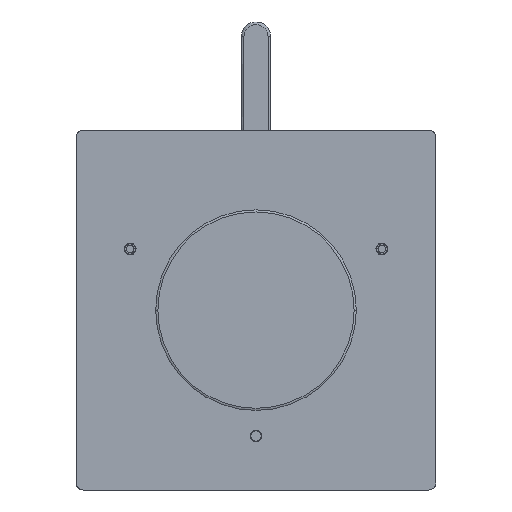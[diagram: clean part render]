
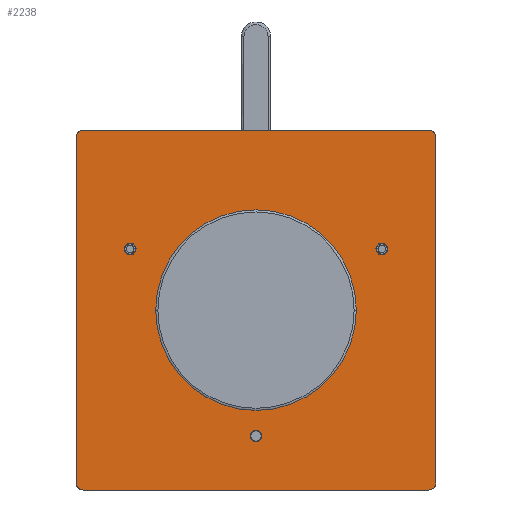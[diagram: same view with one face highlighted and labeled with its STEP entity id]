
A CAD part, front view. The second image highlights one B-rep face of the part: STEP entity #2238.
In plain terms, the highlighted planar face has unit normal (0, -1, 0).
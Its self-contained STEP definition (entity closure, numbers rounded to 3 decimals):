
#276=CARTESIAN_POINT('',(48.,102.5,50.));
#277=CARTESIAN_POINT('',(48.21,102.5,50.));
#278=CARTESIAN_POINT('',(48.63,102.5,49.933));
#279=CARTESIAN_POINT('',(49.196,102.5,49.644));
#280=CARTESIAN_POINT('',(49.644,102.5,49.196));
#281=CARTESIAN_POINT('',(49.836,102.5,48.82));
#282=CARTESIAN_POINT('',(49.901,102.5,48.621));
#284=CARTESIAN_POINT('',(49.901,102.5,48.621));
#285=CARTESIAN_POINT('',(49.967,102.5,48.421));
#286=CARTESIAN_POINT('',(50.,102.5,48.21));
#287=CARTESIAN_POINT('',(50.,102.5,48.));
#289=DIRECTION('',(0.,0.,1.));
#290=VECTOR('',#289,96.);
#291=CARTESIAN_POINT('',(50.,102.5,-48.));
#292=LINE('',#291,#290);
#293=CARTESIAN_POINT('',(50.,102.5,-48.));
#294=CARTESIAN_POINT('',(50.,102.5,-48.21));
#295=CARTESIAN_POINT('',(49.933,102.5,-48.63));
#296=CARTESIAN_POINT('',(49.644,102.5,-49.196));
#297=CARTESIAN_POINT('',(49.196,102.5,-49.644));
#298=CARTESIAN_POINT('',(48.82,102.5,-49.836));
#299=CARTESIAN_POINT('',(48.621,102.5,-49.901));
#301=CARTESIAN_POINT('',(48.621,102.5,-49.901));
#302=CARTESIAN_POINT('',(48.421,102.5,-49.967));
#303=CARTESIAN_POINT('',(48.21,102.5,-50.));
#304=CARTESIAN_POINT('',(48.,102.5,-50.));
#306=DIRECTION('',(1.,0.,0.));
#307=VECTOR('',#306,96.);
#308=CARTESIAN_POINT('',(-48.,102.5,-50.));
#309=LINE('',#308,#307);
#310=CARTESIAN_POINT('',(-48.,102.5,-50.));
#311=CARTESIAN_POINT('',(-48.21,102.5,-50.));
#312=CARTESIAN_POINT('',(-48.63,102.5,-49.933));
#313=CARTESIAN_POINT('',(-49.196,102.5,-49.644));
#314=CARTESIAN_POINT('',(-49.643,102.5,-49.197));
#315=CARTESIAN_POINT('',(-49.835,102.5,-48.822));
#316=CARTESIAN_POINT('',(-49.9,102.5,-48.624));
#318=CARTESIAN_POINT('',(-49.9,102.5,-48.624));
#319=CARTESIAN_POINT('',(-49.966,102.5,-48.423));
#320=CARTESIAN_POINT('',(-50.,102.5,-48.211));
#321=CARTESIAN_POINT('',(-50.,102.5,-48.));
#323=DIRECTION('',(0.,0.,-1.));
#324=VECTOR('',#323,96.);
#325=CARTESIAN_POINT('',(-50.,102.5,48.));
#326=LINE('',#325,#324);
#327=CARTESIAN_POINT('',(-50.,102.5,48.));
#328=CARTESIAN_POINT('',(-50.,102.5,48.21));
#329=CARTESIAN_POINT('',(-49.933,102.5,48.63));
#330=CARTESIAN_POINT('',(-49.644,102.5,49.196));
#331=CARTESIAN_POINT('',(-49.197,102.5,49.643));
#332=CARTESIAN_POINT('',(-48.822,102.5,49.835));
#333=CARTESIAN_POINT('',(-48.624,102.5,49.9));
#335=CARTESIAN_POINT('',(-48.624,102.5,49.9));
#336=CARTESIAN_POINT('',(-48.423,102.5,49.966));
#337=CARTESIAN_POINT('',(-48.211,102.5,50.));
#338=CARTESIAN_POINT('',(-48.,102.5,50.));
#340=DIRECTION('',(-1.,0.,0.));
#341=VECTOR('',#340,96.);
#342=CARTESIAN_POINT('',(48.,102.5,50.));
#343=LINE('',#342,#341);
#376=CARTESIAN_POINT('',(0.,102.5,0.));
#377=DIRECTION('',(0.,-1.,0.));
#378=DIRECTION('',(1.,0.,0.));
#379=AXIS2_PLACEMENT_3D('',#376,#377,#378);
#386=CARTESIAN_POINT('',(0.,102.5,0.));
#387=DIRECTION('',(0.,-1.,0.));
#388=DIRECTION('',(-1.,0.,0.));
#389=AXIS2_PLACEMENT_3D('',#386,#387,#388);
#406=CARTESIAN_POINT('',(0.,102.5,-35.));
#407=DIRECTION('',(0.,1.,0.));
#408=DIRECTION('',(0.,0.,1.));
#409=AXIS2_PLACEMENT_3D('',#406,#407,#408);
#415=CARTESIAN_POINT('',(0.,102.5,-35.));
#416=DIRECTION('',(0.,1.,0.));
#417=DIRECTION('',(0.,0.,-1.));
#418=AXIS2_PLACEMENT_3D('',#415,#416,#417);
#454=CARTESIAN_POINT('',(35.,102.5,17.));
#455=DIRECTION('',(0.,1.,0.));
#456=DIRECTION('',(-1.,0.,0.));
#457=AXIS2_PLACEMENT_3D('',#454,#455,#456);
#463=CARTESIAN_POINT('',(35.,102.5,17.));
#464=DIRECTION('',(0.,1.,0.));
#465=DIRECTION('',(1.,0.,0.));
#466=AXIS2_PLACEMENT_3D('',#463,#464,#465);
#502=CARTESIAN_POINT('',(-35.,102.5,17.));
#503=DIRECTION('',(0.,1.,0.));
#504=DIRECTION('',(-1.,0.,0.));
#505=AXIS2_PLACEMENT_3D('',#502,#503,#504);
#511=CARTESIAN_POINT('',(-35.,102.5,17.));
#512=DIRECTION('',(0.,1.,0.));
#513=DIRECTION('',(1.,0.,0.));
#514=AXIS2_PLACEMENT_3D('',#511,#512,#513);
#1737=CARTESIAN_POINT('',(-50.,102.5,48.));
#1738=CARTESIAN_POINT('',(-50.,102.5,-48.));
#1739=VERTEX_POINT('',#1737);
#1740=VERTEX_POINT('',#1738);
#1745=VERTEX_POINT('',#333);
#1746=VERTEX_POINT('',#338);
#1750=VERTEX_POINT('',#310);
#1751=VERTEX_POINT('',#316);
#1752=CARTESIAN_POINT('',(48.,102.5,-50.));
#1753=VERTEX_POINT('',#1752);
#1754=VERTEX_POINT('',#293);
#1755=VERTEX_POINT('',#299);
#1756=CARTESIAN_POINT('',(50.,102.5,48.));
#1757=VERTEX_POINT('',#1756);
#1758=VERTEX_POINT('',#276);
#1759=VERTEX_POINT('',#282);
#1760=CARTESIAN_POINT('',(-36.653,102.5,17.));
#1761=CARTESIAN_POINT('',(-33.347,102.5,17.));
#1762=VERTEX_POINT('',#1760);
#1763=VERTEX_POINT('',#1761);
#1764=CARTESIAN_POINT('',(33.347,102.5,17.));
#1765=CARTESIAN_POINT('',(36.653,102.5,17.));
#1766=VERTEX_POINT('',#1764);
#1767=VERTEX_POINT('',#1765);
#1768=CARTESIAN_POINT('',(0.,102.5,-33.372));
#1769=CARTESIAN_POINT('',(0.,102.5,-36.628));
#1770=VERTEX_POINT('',#1768);
#1771=VERTEX_POINT('',#1769);
#1772=CARTESIAN_POINT('',(27.884,102.5,0.));
#1773=CARTESIAN_POINT('',(-27.884,102.5,0.));
#1774=VERTEX_POINT('',#1772);
#1775=VERTEX_POINT('',#1773);
#2185=CARTESIAN_POINT('',(0.,102.5,0.));
#2186=DIRECTION('',(0.,-1.,0.));
#2187=DIRECTION('',(1.,0.,0.));
#2188=AXIS2_PLACEMENT_3D('',#2185,#2186,#2187);
#2189=PLANE('',#2188);
#2191=ORIENTED_EDGE('',*,*,#2190,.F.);
#2193=ORIENTED_EDGE('',*,*,#2192,.T.);
#2195=ORIENTED_EDGE('',*,*,#2194,.T.);
#2197=ORIENTED_EDGE('',*,*,#2196,.F.);
#2199=ORIENTED_EDGE('',*,*,#2198,.T.);
#2201=ORIENTED_EDGE('',*,*,#2200,.T.);
#2203=ORIENTED_EDGE('',*,*,#2202,.F.);
#2205=ORIENTED_EDGE('',*,*,#2204,.T.);
#2207=ORIENTED_EDGE('',*,*,#2206,.T.);
#2209=ORIENTED_EDGE('',*,*,#2208,.F.);
#2210=ORIENTED_EDGE('',*,*,#2173,.T.);
#2211=ORIENTED_EDGE('',*,*,#2180,.T.);
#2212=EDGE_LOOP('',(#2191,#2193,#2195,#2197,#2199,#2201,#2203,#2205,#2207,#2209,
#2210,#2211));
#2213=FACE_OUTER_BOUND('',#2212,.F.);
#2215=ORIENTED_EDGE('',*,*,#2214,.T.);
#2217=ORIENTED_EDGE('',*,*,#2216,.T.);
#2218=EDGE_LOOP('',(#2215,#2217));
#2219=FACE_BOUND('',#2218,.F.);
#2221=ORIENTED_EDGE('',*,*,#2220,.F.);
#2223=ORIENTED_EDGE('',*,*,#2222,.F.);
#2224=EDGE_LOOP('',(#2221,#2223));
#2225=FACE_BOUND('',#2224,.F.);
#2227=ORIENTED_EDGE('',*,*,#2226,.F.);
#2229=ORIENTED_EDGE('',*,*,#2228,.F.);
#2230=EDGE_LOOP('',(#2227,#2229));
#2231=FACE_BOUND('',#2230,.F.);
#2233=ORIENTED_EDGE('',*,*,#2232,.F.);
#2235=ORIENTED_EDGE('',*,*,#2234,.F.);
#2236=EDGE_LOOP('',(#2233,#2235));
#2237=FACE_BOUND('',#2236,.F.);
#2238=ADVANCED_FACE('',(#2213,#2219,#2225,#2231,#2237),#2189,.T.);
#283=B_SPLINE_CURVE_WITH_KNOTS('',3,(#276,#277,#278,#279,#280,#281,#282),
.UNSPECIFIED.,.F.,.F.,(4,1,1,1,4),(0.,0.251,0.501,
0.751,1.),.UNSPECIFIED.);
#288=B_SPLINE_CURVE_WITH_KNOTS('',3,(#284,#285,#286,#287),.UNSPECIFIED.,.F.,.F.,
(4,4),(0.,1.),.UNSPECIFIED.);
#300=B_SPLINE_CURVE_WITH_KNOTS('',3,(#293,#294,#295,#296,#297,#298,#299),
.UNSPECIFIED.,.F.,.F.,(4,1,1,1,4),(0.,0.251,0.501,
0.751,1.),.UNSPECIFIED.);
#305=B_SPLINE_CURVE_WITH_KNOTS('',3,(#301,#302,#303,#304),.UNSPECIFIED.,.F.,.F.,
(4,4),(0.,1.),.UNSPECIFIED.);
#317=B_SPLINE_CURVE_WITH_KNOTS('',3,(#310,#311,#312,#313,#314,#315,#316),
.UNSPECIFIED.,.F.,.F.,(4,1,1,1,4),(0.,0.251,0.502,
0.752,1.),.UNSPECIFIED.);
#322=B_SPLINE_CURVE_WITH_KNOTS('',3,(#318,#319,#320,#321),.UNSPECIFIED.,.F.,.F.,
(4,4),(0.,1.),.UNSPECIFIED.);
#334=B_SPLINE_CURVE_WITH_KNOTS('',3,(#327,#328,#329,#330,#331,#332,#333),
.UNSPECIFIED.,.F.,.F.,(4,1,1,1,4),(0.,0.251,0.502,
0.752,1.),.UNSPECIFIED.);
#339=B_SPLINE_CURVE_WITH_KNOTS('',3,(#335,#336,#337,#338),.UNSPECIFIED.,.F.,.F.,
(4,4),(0.,1.),.UNSPECIFIED.);
#380=CIRCLE('',#379,27.884);
#390=CIRCLE('',#389,27.884);
#410=CIRCLE('',#409,1.628);
#419=CIRCLE('',#418,1.628);
#458=CIRCLE('',#457,1.653);
#467=CIRCLE('',#466,1.653);
#506=CIRCLE('',#505,1.653);
#515=CIRCLE('',#514,1.653);
#2173=EDGE_CURVE('',#1739,#1745,#334,.T.);
#2180=EDGE_CURVE('',#1745,#1746,#339,.T.);
#2190=EDGE_CURVE('',#1758,#1746,#343,.T.);
#2192=EDGE_CURVE('',#1758,#1759,#283,.T.);
#2194=EDGE_CURVE('',#1759,#1757,#288,.T.);
#2196=EDGE_CURVE('',#1754,#1757,#292,.T.);
#2198=EDGE_CURVE('',#1754,#1755,#300,.T.);
#2200=EDGE_CURVE('',#1755,#1753,#305,.T.);
#2202=EDGE_CURVE('',#1750,#1753,#309,.T.);
#2204=EDGE_CURVE('',#1750,#1751,#317,.T.);
#2206=EDGE_CURVE('',#1751,#1740,#322,.T.);
#2208=EDGE_CURVE('',#1739,#1740,#326,.T.);
#2214=EDGE_CURVE('',#1774,#1775,#380,.T.);
#2216=EDGE_CURVE('',#1775,#1774,#390,.T.);
#2220=EDGE_CURVE('',#1770,#1771,#410,.T.);
#2222=EDGE_CURVE('',#1771,#1770,#419,.T.);
#2226=EDGE_CURVE('',#1766,#1767,#458,.T.);
#2228=EDGE_CURVE('',#1767,#1766,#467,.T.);
#2232=EDGE_CURVE('',#1762,#1763,#506,.T.);
#2234=EDGE_CURVE('',#1763,#1762,#515,.T.);
